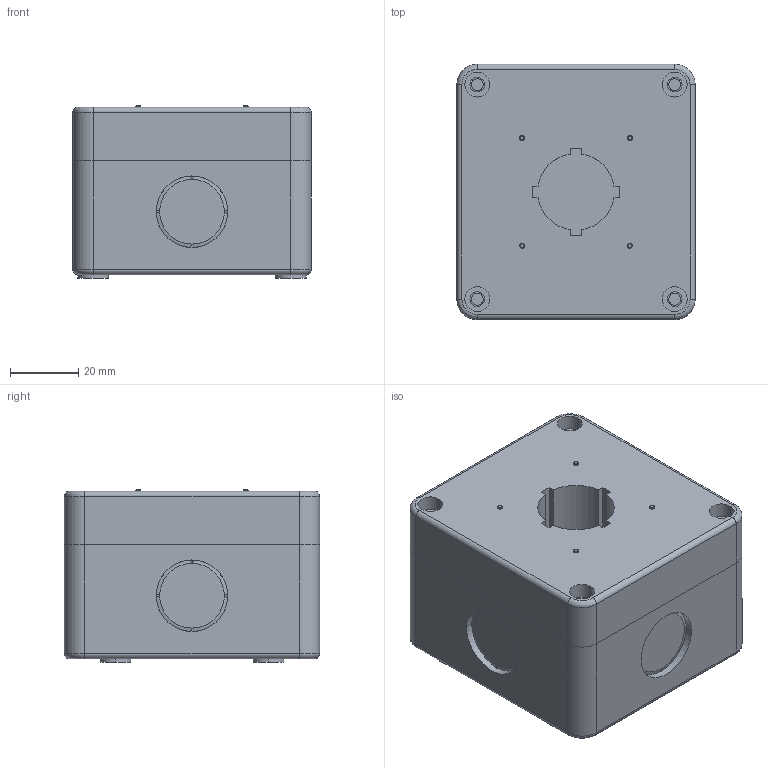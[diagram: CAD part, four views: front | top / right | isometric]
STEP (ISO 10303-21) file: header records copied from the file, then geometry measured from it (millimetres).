
FILE_DESCRIPTION (( 'STEP AP203' ), '1' );
FILE_NAME ('BG1.STEP', '2014-03-24T05:22:18', ( 'edv' ), ( '' ), 'SwSTEP 2.0', 'SolidWorks 2014', '' );
FILE_SCHEMA (( 'CONFIG_CONTROL_DESIGN' ));
Length unit declared in the file: millimetre
Products named in the file (3): Deckel_BG1_Dummie; BG1; Unterteil_BG1_Dummie
Assembly tree (2 placements, depth 2):
  BG1
    Unterteil_BG1_Dummie
    Deckel_BG1_Dummie
Bounding box: 70 x 75 x 50.6 mm (x, y, z)
Volume: 242368.9 mm3; surface area: 38505.3 mm2
Topology: 2 solids, 2 shells, 197 faces, 452 edges, 286 vertices
Faces by surface type: cylinder 102, plane 59, cone 20, bspline 12, torus 4
Entity records: 6389 total; most frequent: CARTESIAN_POINT 1580, DIRECTION 998, ORIENTED_EDGE 904, EDGE_CURVE 452, AXIS2_PLACEMENT_3D 420, VERTEX_POINT 286, EDGE_LOOP 234, CIRCLE 230
